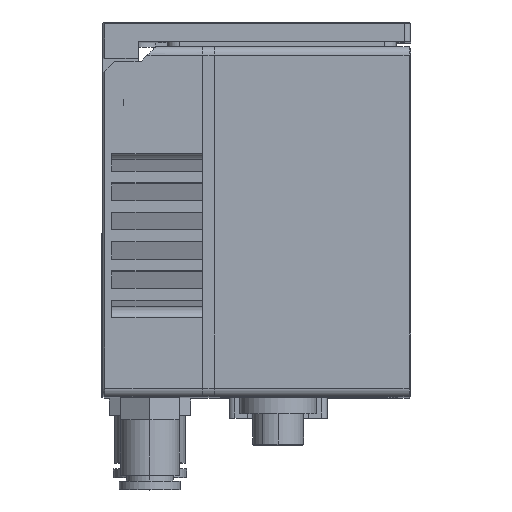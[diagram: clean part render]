
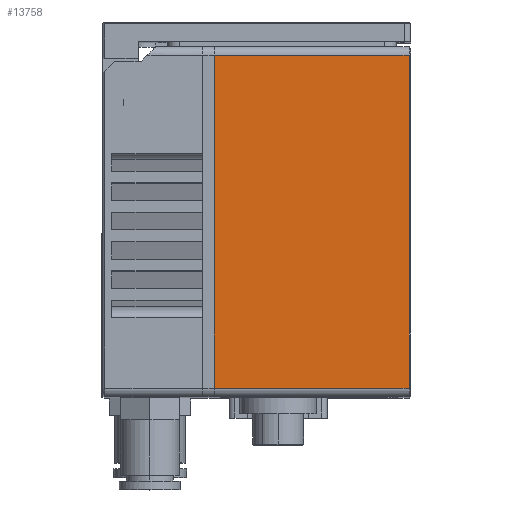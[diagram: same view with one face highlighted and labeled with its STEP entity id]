
A CAD part, top view. The second image highlights one B-rep face of the part: STEP entity #13758.
In plain terms, the highlighted planar face has unit normal (0, 0, 1).
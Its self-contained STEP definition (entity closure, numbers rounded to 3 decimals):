
#777=DIRECTION('',(1.,0.,0.));
#778=VECTOR('',#777,33.2);
#779=CARTESIAN_POINT('',(-11.5,-41.548,72.927));
#780=LINE('',#779,#778);
#1633=DIRECTION('',(0.,1.,0.));
#1634=VECTOR('',#1633,56.748);
#1635=CARTESIAN_POINT('',(21.7,-41.548,72.927));
#1636=LINE('',#1635,#1634);
#1637=DIRECTION('',(0.,1.,0.));
#1638=VECTOR('',#1637,56.748);
#1639=CARTESIAN_POINT('',(-11.5,-41.548,72.927));
#1640=LINE('',#1639,#1638);
#1641=DIRECTION('',(-1.,0.,0.));
#1642=VECTOR('',#1641,33.2);
#1643=CARTESIAN_POINT('',(21.7,15.2,72.927));
#1644=LINE('',#1643,#1642);
#9793=CARTESIAN_POINT('',(-11.5,15.2,72.927));
#9794=VERTEX_POINT('',#9793);
#9795=CARTESIAN_POINT('',(-11.5,-41.548,72.927));
#9796=VERTEX_POINT('',#9795);
#10117=CARTESIAN_POINT('',(21.7,-41.548,72.927));
#10118=VERTEX_POINT('',#10117);
#10563=CARTESIAN_POINT('',(21.7,15.2,72.927));
#10564=VERTEX_POINT('',#10563);
#13746=CARTESIAN_POINT('',(-11.5,16.7,72.927));
#13747=DIRECTION('',(0.,0.,-1.));
#13748=DIRECTION('',(0.,-1.,0.));
#13749=AXIS2_PLACEMENT_3D('',#13746,#13747,#13748);
#13750=PLANE('',#13749);
#13751=ORIENTED_EDGE('',*,*,#13740,.F.);
#13752=ORIENTED_EDGE('',*,*,#13165,.F.);
#13753=ORIENTED_EDGE('',*,*,#12749,.T.);
#13755=ORIENTED_EDGE('',*,*,#13754,.F.);
#13756=EDGE_LOOP('',(#13751,#13752,#13753,#13755));
#13757=FACE_OUTER_BOUND('',#13756,.F.);
#12749=EDGE_CURVE('',#9796,#9794,#1640,.T.);
#13165=EDGE_CURVE('',#9796,#10118,#780,.T.);
#13740=EDGE_CURVE('',#10118,#10564,#1636,.T.);
#13754=EDGE_CURVE('',#10564,#9794,#1644,.T.);
#13758=ADVANCED_FACE('',(#13757),#13750,.F.);
